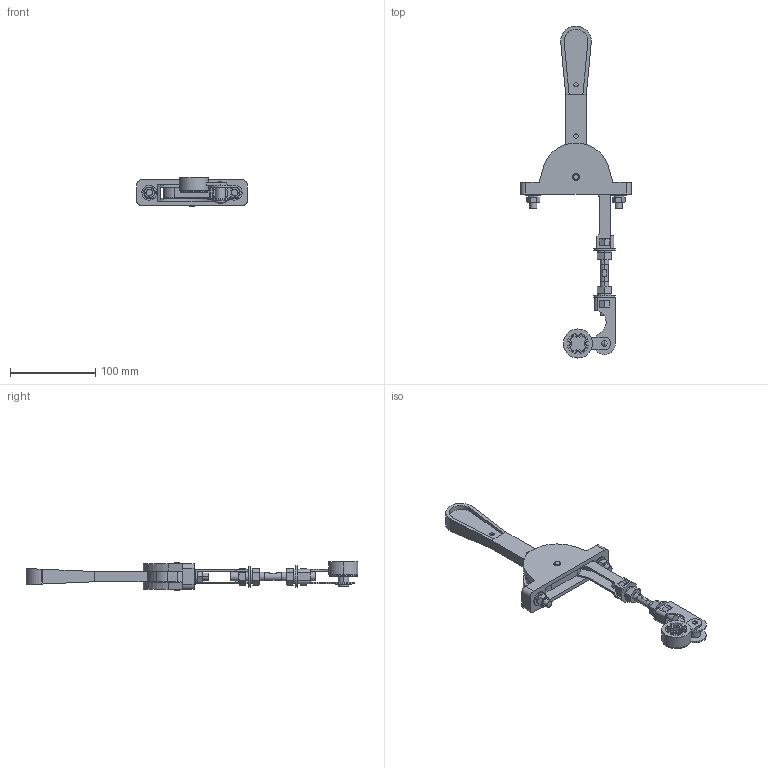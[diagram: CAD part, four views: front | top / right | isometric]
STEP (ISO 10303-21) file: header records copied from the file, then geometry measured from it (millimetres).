
FILE_DESCRIPTION (( 'STEP AP203' ), '1' );
FILE_NAME ('Ðóêîÿòêà ïåðåäíÿÿ ñìåùåííàÿ (100-400À).STEP', '2014-10-29T08:57:42', ( 'admin' ), ( '' ), 'SwSTEP 2.0', 'SolidWorks 2007', '' );
FILE_SCHEMA (( 'CONFIG_CONTROL_DESIGN' ));
Length unit declared in the file: millimetre
Products named in the file (1): Ðóêîÿòêà ïåðåäíÿÿ ñìåùåííàÿ  (100-400À)
Bounding box: 130 x 389.01 x 33.5 mm (x, y, z)
Surface area: 82344.8 mm2 (no closed solid volume)
Topology: 0 solids, 38 shells, 395 faces, 1221 edges, 867 vertices
Faces by surface type: plane 215, cylinder 136, cone 36, torus 6, sphere 2
Entity records: 14170 total; most frequent: CARTESIAN_POINT 3024, DIRECTION 2424, ORIENTED_EDGE 2038, EDGE_CURVE 1221, AXIS2_PLACEMENT_3D 891, VERTEX_POINT 867, LINE 642, VECTOR 642
